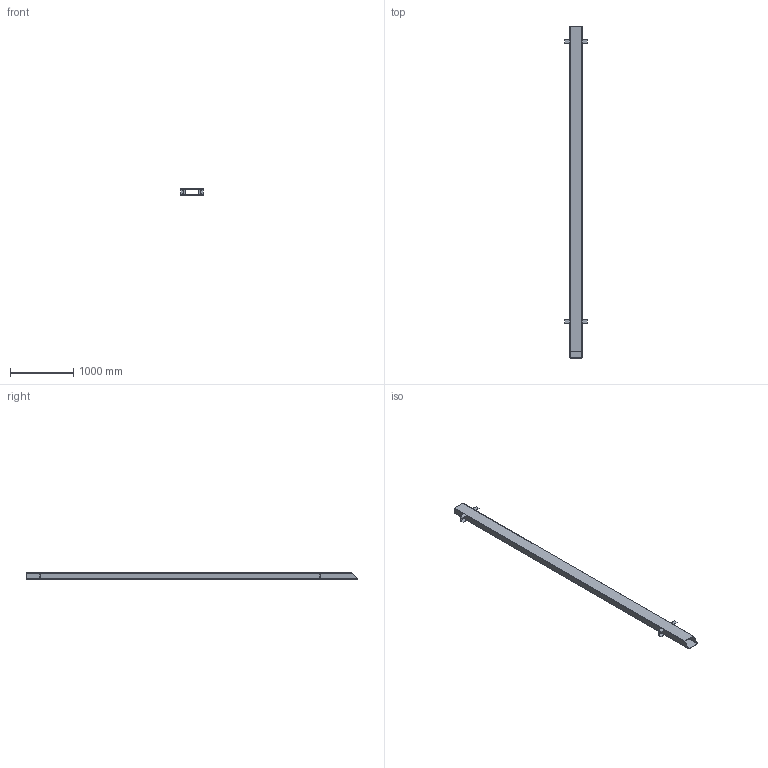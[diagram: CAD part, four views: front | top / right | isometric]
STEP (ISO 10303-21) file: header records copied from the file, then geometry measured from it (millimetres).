
FILE_DESCRIPTION(/* description */ (''),/* implementation_level */ '2;1');
FILE_NAME(/* name */ '2020TOMO-TELAIO-ASSY.00_v12-Part_07.stp',/* time_stamp */ '2022-05-16T13:33:52+02:00',/* author */ (''),/* organization */ (''),/* preprocessor_version */ 'ST-DEVELOPER v18.102',/* originating_system */ 'SIEMENS PLM Software NX 2000',/* authorisation */ '');
FILE_SCHEMA (('AUTOMOTIVE_DESIGN { 1 0 10303 214 3 1 1 1 }'));
Length unit declared in the file: millimetre
Products named in the file (1): turc3144724Fyy6f
Bounding box: 360 x 5235 x 100 mm (x, y, z)
Volume: 9401175.6 mm3; surface area: 6187240.3 mm2
Topology: 21 solids, 21 shells, 170 faces, 392 edges, 264 vertices
Faces by surface type: plane 146, cylinder 24
Full cylindrical faces by diameter (mm): 6.8 x16
Entity records: 4893 total; most frequent: CARTESIAN_POINT 803, DIRECTION 774, ORIENTED_EDGE 736, EDGE_CURVE 368, LINE 320, VECTOR 320, VERTEX_POINT 256, AXIS2_PLACEMENT_3D 227
